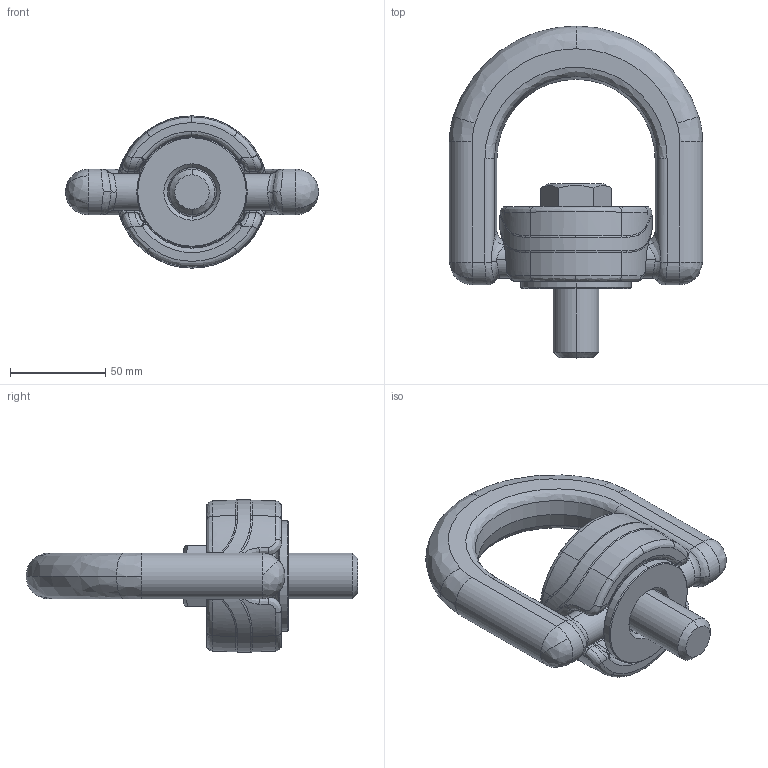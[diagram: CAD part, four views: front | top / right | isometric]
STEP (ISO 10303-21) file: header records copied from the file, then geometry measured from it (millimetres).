
FILE_DESCRIPTION (( 'STEP AP203' ), '1' );
FILE_NAME ('Z101724.step', '2016-04-04T11:13:31', ( '' ), ( '' ), 'SwSTEP 2.0', 'SolidWorks 2008', '' );
FILE_SCHEMA (( 'CONFIG_CONTROL_DESIGN' ));
Length unit declared in the file: millimetre
Products named in the file (6): Z7681224; Z101724; Z776043; Z768029_SMITT; Z768073; Z768659
Assembly tree (5 placements, depth 2):
  Z101724
    Z768073
    Z768029_SMITT
    Z7681224
    Z776043
    Z768659
Bounding box: 133 x 174.35 x 80 mm (x, y, z)
Volume: 368404.8 mm3; surface area: 72629.1 mm2
Topology: 5 solids, 5 shells, 387 faces, 933 edges, 559 vertices
Faces by surface type: bspline 250, cylinder 61, plane 51, cone 25
Entity records: 31584 total; most frequent: CARTESIAN_POINT 24170, ORIENTED_EDGE 1858, EDGE_CURVE 929, DIRECTION 832, VERTEX_POINT 559, B_SPLINE_CURVE_WITH_KNOTS 441, EDGE_LOOP 398, FACE_OUTER_BOUND 387
